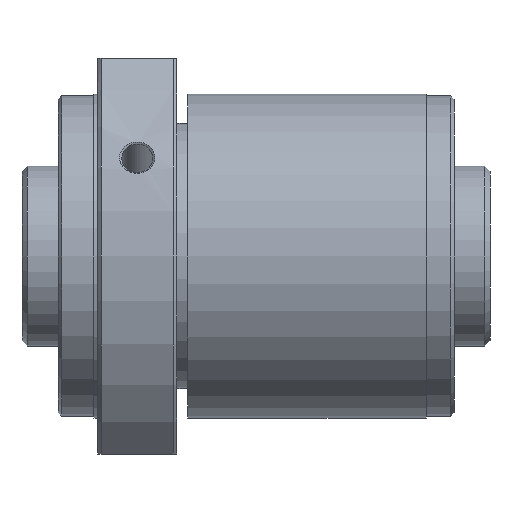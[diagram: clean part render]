
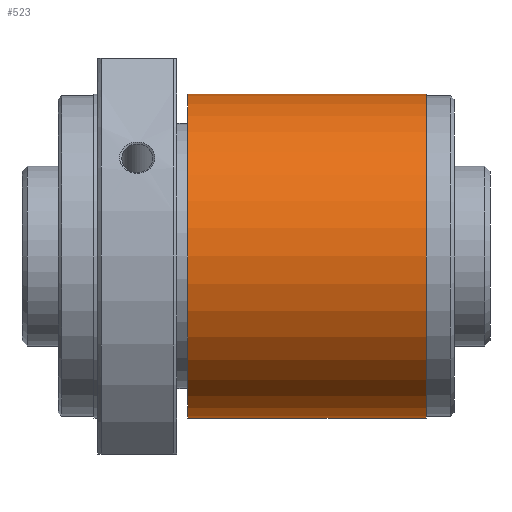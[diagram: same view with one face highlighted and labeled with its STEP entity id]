
A CAD part, front view. The second image highlights one B-rep face of the part: STEP entity #523.
In plain terms, the highlighted cylindrical face has radius 45 mm (diameter 90 mm), a full revolution.
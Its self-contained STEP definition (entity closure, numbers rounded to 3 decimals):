
#61=CYLINDRICAL_SURFACE('',#605,45.);
#121=ORIENTED_EDGE('',*,*,#223,.T.);
#122=ORIENTED_EDGE('',*,*,#222,.F.);
#222=EDGE_CURVE('',#277,#277,#320,.T.);
#223=EDGE_CURVE('',#278,#278,#321,.T.);
#277=VERTEX_POINT('',#910);
#278=VERTEX_POINT('',#913);
#320=CIRCLE('',#604,45.);
#321=CIRCLE('',#606,45.);
#370=EDGE_LOOP('',(#121));
#371=EDGE_LOOP('',(#122));
#446=FACE_BOUND('',#370,.T.);
#447=FACE_BOUND('',#371,.T.);
#523=ADVANCED_FACE('',(#446,#447),#61,.T.);
#604=AXIS2_PLACEMENT_3D('',#909,#723,#724);
#605=AXIS2_PLACEMENT_3D('',#911,#725,#726);
#606=AXIS2_PLACEMENT_3D('',#912,#727,#728);
#723=DIRECTION('',(1.,0.,0.));
#724=DIRECTION('',(0.,0.,-1.));
#725=DIRECTION('',(1.,0.,0.));
#726=DIRECTION('',(0.,0.,-1.));
#727=DIRECTION('',(1.,0.,0.));
#728=DIRECTION('',(0.,0.,-1.));
#909=CARTESIAN_POINT('',(102.3,0.,0.));
#910=CARTESIAN_POINT('',(102.3,0.,-45.));
#911=CARTESIAN_POINT('',(110.,0.,0.));
#912=CARTESIAN_POINT('',(36.,0.,0.));
#913=CARTESIAN_POINT('',(36.,0.,-45.));
